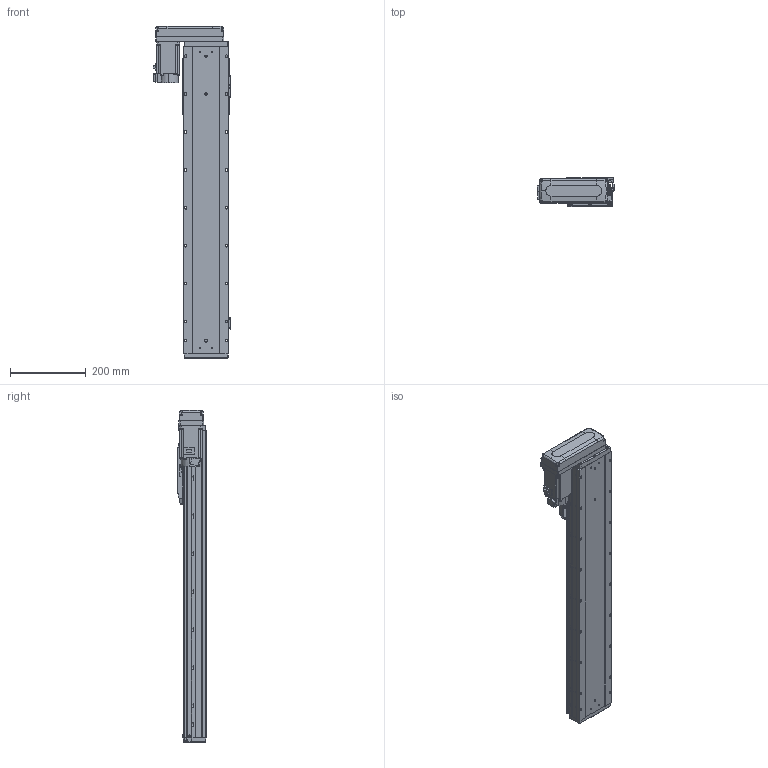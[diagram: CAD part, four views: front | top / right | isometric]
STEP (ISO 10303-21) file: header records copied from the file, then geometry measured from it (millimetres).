
FILE_DESCRIPTION (( 'STEP AP203' ), '1' );
FILE_NAME ('GTH12-600-BR-M40-C4.step', '2023-07-05T00:06:38', ( '微软用户' ), ( '微软中国' ), 'SwSTEP 2.0', 'SolidWorks 2020', '' );
FILE_SCHEMA (( 'CONFIG_CONTROL_DESIGN' ));
Length unit declared in the file: millimetre
Products named in the file (18): GBT 70.1-M3℅6; GBT96.1-2002 3×0.8; GBT 70.1-M5×16; BTH-M3X5X6; GTH120-001_600; GBT 70.3-M3℅8; hg-kn43j_-s100_; GTH120-003; GTH80-022; CTHA86-033_M40B; GTH120-006; GTH80-028; GTH120-027-1_GTH120-027-2; GTH120-004; GTH50-023; GTH12-600-BR-M40-C4; GTH120-013; GTH50-024
Assembly tree (59 placements, depth 2):
  GTH12-600-BR-M40-C4
    GTH120-001_600
    GTH120-003
    GTH120-006
    GTH120-004
    GTH120-013
    GBT 70.1-M3℅6  x14
    GBT 70.1-M5×16  x10
    GBT 70.3-M3℅8  x4
    GTH80-022
    GTH80-028  x2
    GTH50-023  x3
    GTH50-024  x3
    GBT96.1-2002 3×0.8  x6
    BTH-M3X5X6  x8
    hg-kn43j_-s100_
    CTHA86-033_M40B
    GTH120-027-1_GTH120-027-2
Bounding box: 203.5 x 76 x 875.5 mm (x, y, z)
Volume: 6559841.6 mm3; surface area: 617132.3 mm2
Topology: 61 solids, 61 shells, 2451 faces, 5716 edges, 3507 vertices
Faces by surface type: plane 1262, cylinder 709, cone 292, torus 174, sphere 8, bspline 6
Entity records: 45814 total; most frequent: CARTESIAN_POINT 7760, DIRECTION 7584, ORIENTED_EDGE 7042, EDGE_CURVE 3521, AXIS2_PLACEMENT_3D 2652, LINE 2280, VECTOR 2280, VERTEX_POINT 2228
